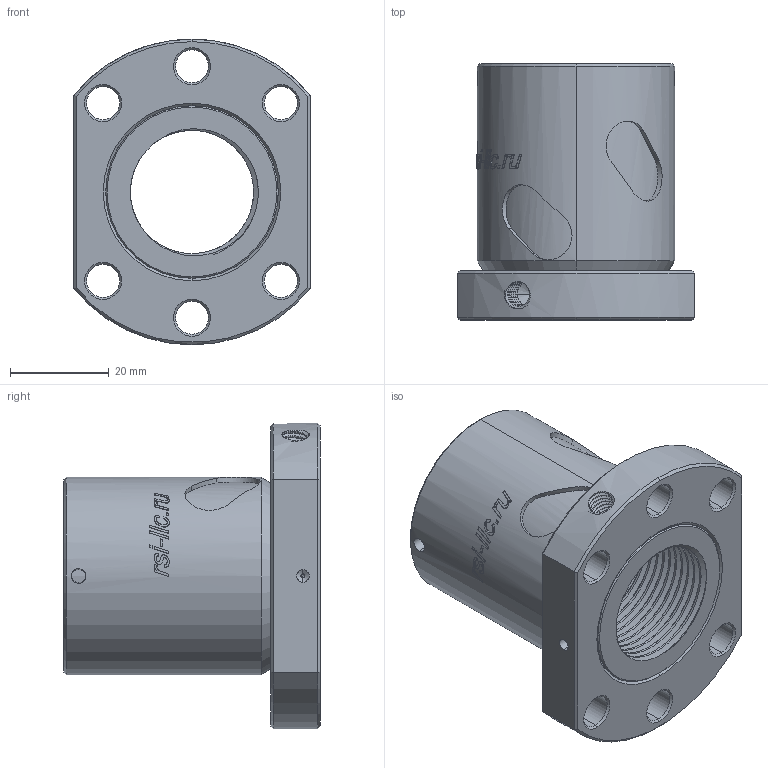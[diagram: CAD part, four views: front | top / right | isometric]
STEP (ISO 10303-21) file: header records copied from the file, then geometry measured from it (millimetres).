
FILE_DESCRIPTION (( 'STEP AP214' ), '1' );
FILE_NAME ('SFU 2505-4.STEP', '2020-10-16T05:40:36', ( '' ), ( '' ), 'SwSTEP 2.0', 'SolidWorks 2018', '' );
FILE_SCHEMA (( 'AUTOMOTIVE_DESIGN' ));
Length unit declared in the file: millimetre
Products named in the file (1): SFU 2505-4
Bounding box: 48 x 52 x 62 mm (x, y, z)
Volume: 48575 mm3; surface area: 30990.4 mm2
Topology: 2 solids, 2 shells, 294 faces, 760 edges, 483 vertices
Faces by surface type: cylinder 115, bspline 84, cone 52, plane 35, torus 8
Entity records: 25802 total; most frequent: CARTESIAN_POINT 18670, ORIENTED_EDGE 1508, DIRECTION 909, EDGE_CURVE 754, VERTEX_POINT 483, AXIS2_PLACEMENT_3D 374, EDGE_LOOP 337, ADVANCED_FACE 294
